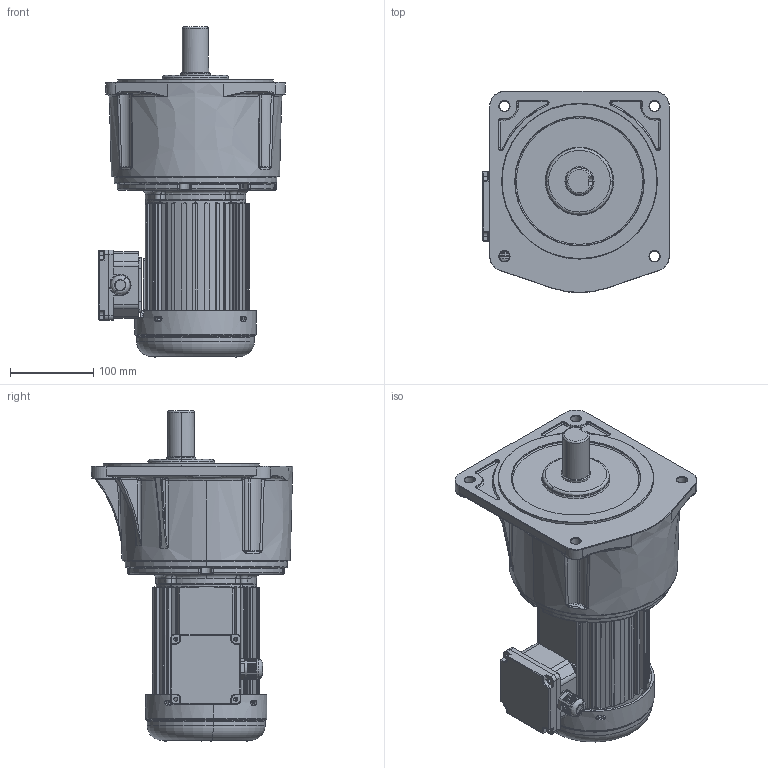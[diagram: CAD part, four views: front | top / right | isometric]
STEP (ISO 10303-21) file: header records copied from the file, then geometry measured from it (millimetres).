
FILE_DESCRIPTION (( 'STEP AP203' ), '1' );
FILE_NAME ('400W配4#立式.STEP', '2019-06-14T07:39:18', ( '微软中国' ), ( '微软用户' ), 'SwSTEP 2.0', 'SolidWorks 2012', '' );
FILE_SCHEMA (( 'CONFIG_CONTROL_DESIGN' ));
Products named in the file (10): 400W饜4#蕾宒; 4#蕾宒眊极; 4xg1x; 400W瑞欶; 釱菜; 綴傷裔 2_2; 坶踡ん 蚾饜; 蜊輛綴諉盄碟裔; 呿蹋諉盄碟; 儂褲 2_2
Assembly tree (9 placements, depth 2):
  400W饜4#蕾宒
    儂褲 2_2
    呿蹋諉盄碟
    蜊輛綴諉盄碟裔
    坶踡ん 蚾饜
    綴傷裔 2_2
    釱菜
    400W瑞欶
    4xg1x
    4#蕾宒眊极
Bounding box: 224.33 x 241.97 x 397.13 mm (x, y, z)
Volume: 4973322.4 mm3; surface area: 675637.3 mm2
Topology: 10 solids, 12 shells, 3794 faces, 9806 edges, 6084 vertices
Faces by surface type: cylinder 1271, plane 1046, bspline 855, torus 368, cone 230, sphere 24
Entity records: 170461 total; most frequent: CARTESIAN_POINT 84621, ORIENTED_EDGE 19478, DIRECTION 15522, EDGE_CURVE 9741, AXIS2_PLACEMENT_3D 6086, VERTEX_POINT 6084, EDGE_LOOP 4201, ADVANCED_FACE 3794
